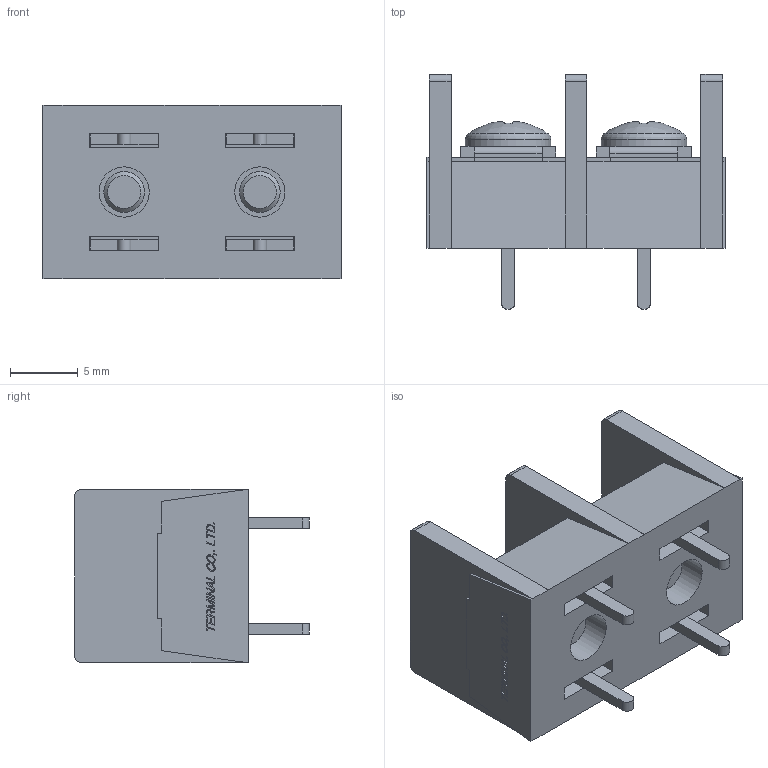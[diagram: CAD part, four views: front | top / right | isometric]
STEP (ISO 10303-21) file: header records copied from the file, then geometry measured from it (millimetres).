
FILE_DESCRIPTION(/* description */ ('Alibre Inc.'),/* implementation_level */ '2;1');
FILE_NAME(/* name */ 'export0',/* time_stamp */ '2015-10-23T17:59:51+09:00',/* author */ (''),/* organization */ (''),/* preprocessor_version */ 'ST-DEVELOPER v14',/* originating_system */ 'Alibre',/* authorisation */ '');
FILE_SCHEMA (('CONFIG_CONTROL_DESIGN'));
Length unit declared in the file: centimetre
Products named in the file (1): ID_1
Bounding box: 22 x 17.3 x 12.8 mm (x, y, z)
Volume: 2127.8 mm3; surface area: 2595.4 mm2
Topology: 1 solids, 35 shells, 960 faces, 2494 edges, 1652 vertices
Faces by surface type: plane 712, bspline 208, cylinder 24, cone 10, torus 4, sphere 2
Full cylindrical faces by diameter (mm): 3 x4, 3.7 x2, 4.6 x2, 6.3 x2
Entity records: 28077 total; most frequent: CARTESIAN_POINT 6921, ORIENTED_EDGE 4952, DIRECTION 2832, EDGE_CURVE 2476, VECTOR 1924, LINE 1924, VERTEX_POINT 1650, EDGE_LOOP 1052
